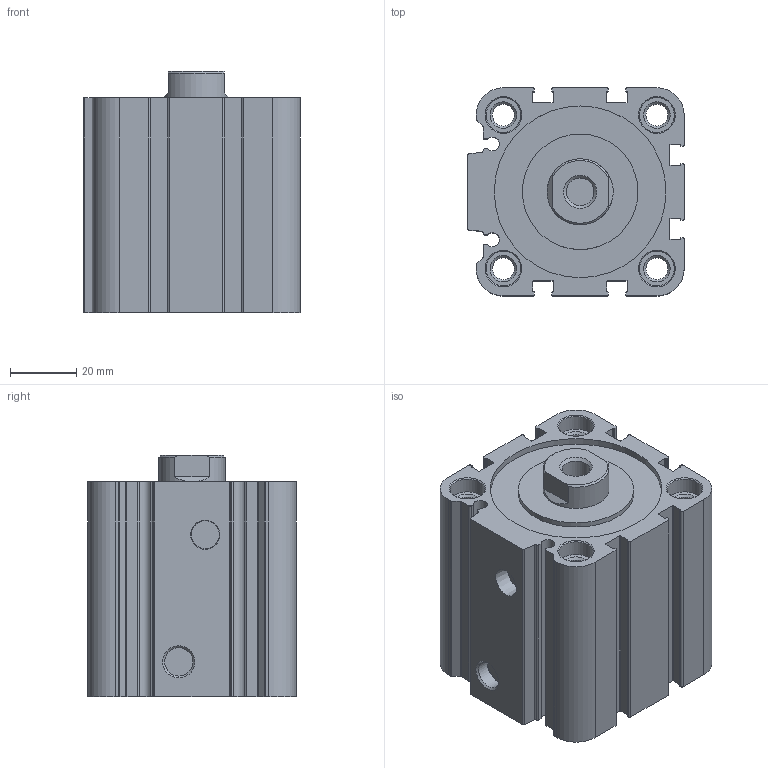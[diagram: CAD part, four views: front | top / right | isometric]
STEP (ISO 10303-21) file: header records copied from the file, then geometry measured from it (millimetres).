
FILE_DESCRIPTION( ( 'STEP AP214' ), '1' );
FILE_NAME( 'C:/Users/EMC02301/Desktop/RU0638 SF图纸/SF50X20-S.stp', '2026-07-24T08:51:23', ( 'License CC BY-ND 4.0' ), ( 'CADENAS' ), ' ', 'PARTsolutions', ' ' );
FILE_SCHEMA( ( 'AUTOMOTIVE_DESIGN { 1 0 10303 214 1 1 1 1 }' ) );
Length unit declared in the file: millimetre
Products named in the file (3): SF50X20-S()(00); _SF50X20()(_body) ; _SF50X20(rod-0)
Assembly tree (2 placements, depth 2):
  SF50X20-S()(00)
    _SF50X20()(_body) 
    _SF50X20(rod-0)
Bounding box: 65.5 x 63 x 73 mm (x, y, z)
Volume: 192768.5 mm3; surface area: 54158.8 mm2
Topology: 2 solids, 2 shells, 200 faces, 519 edges, 340 vertices
Faces by surface type: plane 91, cylinder 87, cone 22
Full cylindrical faces by diameter (mm): 6.647 x4, 8.376 x1, 8.566 x1, 10.5 x8, 20 x2, 35 x1, 50 x3, 52 x1
Entity records: 7610 total; most frequent: DIRECTION 1078, CARTESIAN_POINT 1029, ORIENTED_EDGE 952, EDGE_CURVE 476, AXIS2_PLACEMENT_3D 403, VERTEX_POINT 338, LINE 272, VECTOR 272
